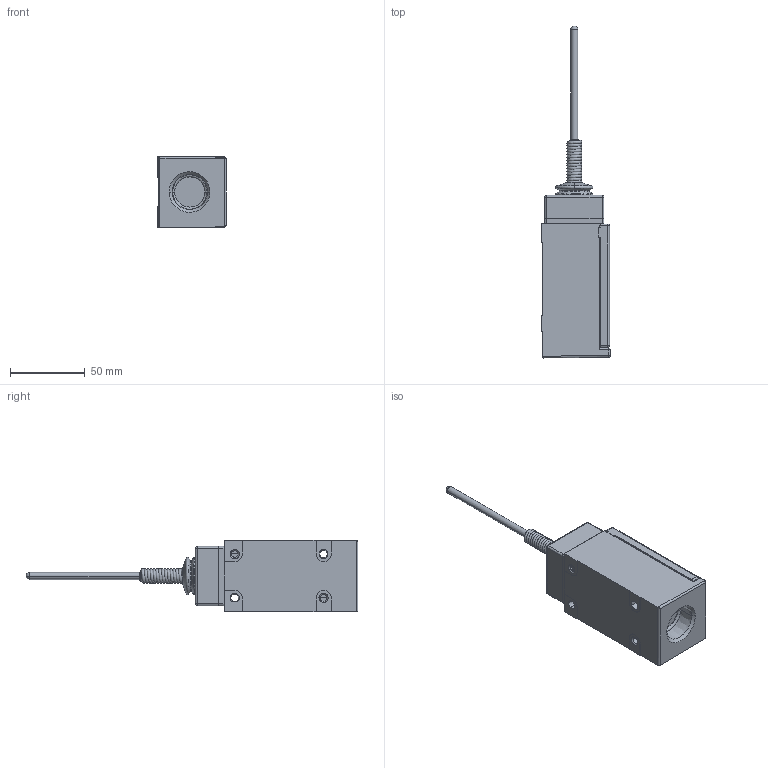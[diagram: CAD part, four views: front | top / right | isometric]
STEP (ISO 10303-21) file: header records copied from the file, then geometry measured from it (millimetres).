
FILE_DESCRIPTION((''),'2;1');
FILE_NAME('LSJ4L-7N','2012-12-06T',('E522935'),(''),'PRO/ENGINEER BY PARAMETRIC TECHNOLOGY CORPORATION, 2009460','PRO/ENGINEER BY PARAMETRIC TECHNOLOGY CORPORATION, 2009460','');
FILE_SCHEMA(('CONFIG_CONTROL_DESIGN'));
Length unit declared in the file: inch
Products named in the file (1): LSJ4L-7N
Bounding box: 45.72 x 222.24 x 47.62 mm (x, y, z)
Volume: 215179.1 mm3; surface area: 32893.2 mm2
Topology: 1 solids, 2 shells, 503 faces, 1254 edges, 768 vertices
Faces by surface type: plane 246, cylinder 166, cone 40, sphere 25, bspline 18, torus 8
Entity records: 23566 total; most frequent: CARTESIAN_POINT 11654, ORIENTED_EDGE 2504, DIRECTION 2466, EDGE_CURVE 1252, AXIS2_PLACEMENT_3D 906, VERTEX_POINT 768, VECTOR 654, LINE 654
